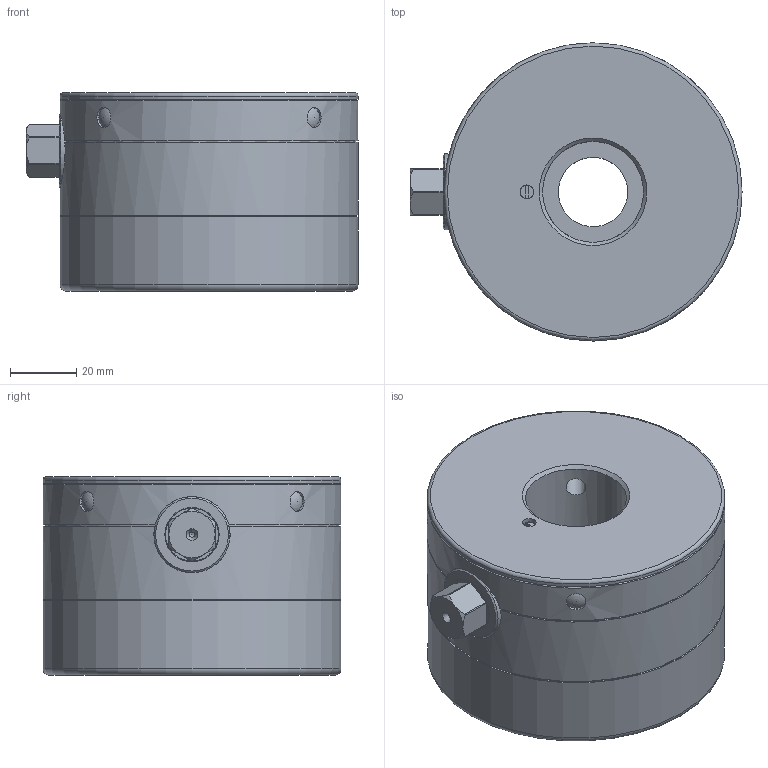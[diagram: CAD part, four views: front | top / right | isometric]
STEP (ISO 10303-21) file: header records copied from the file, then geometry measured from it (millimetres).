
FILE_DESCRIPTION(/* description */ ('Unknown','CAx-IF Rec.Pracs.---Representation and Presentation of Product Manufacturing Information (PMI)---4.0---2014-10-13','CAx-IF Rec.Pracs.---3D Tessellated Geometry---0.4---2014-09-14','2;1'),/* implementation_level */ '2;1');
FILE_NAME(/* name */ 'MDR 120 - M24 - SW 14',/* time_stamp */ '2023-09-26T11:26:01+02:00',/* author */ ('Unknown'),/* organization */ ('Unknown'),/* preprocessor_version */ 'ST-DEVELOPER v18.102',/* originating_system */ 'Solid Edge',/* authorisation */ 'Unknown');
FILE_SCHEMA (('AP242_MANAGED_MODEL_BASED_3D_ENGINEERING_MIM_LF { 1 0 10303 442 1 1 4 }'));
Length unit declared in the file: millimetre
Products named in the file (1): 16333040_Vereinfachung
Bounding box: 100.3 x 90 x 60 mm (x, y, z)
Volume: 348761.6 mm3; surface area: 36358 mm2
Topology: 1 solids, 1 shells, 92 faces, 224 edges, 142 vertices
Faces by surface type: plane 30, cylinder 27, cone 23, sphere 8, torus 4
Full cylindrical faces by diameter (mm): 1.6 x2, 4.134 x1, 6 x8, 12 x1, 16 x1, 21 x1, 30.5 x1, 35 x1, 42 x1, 89 x1, 90 x4
Entity records: 2961 total; most frequent: CARTESIAN_POINT 536, DIRECTION 378, ORIENTED_EDGE 286, AXIS2_PLACEMENT_3D 174, FACE_BOUND 154, EDGE_LOOP 152, EDGE_CURVE 143, VERTEX_POINT 113
